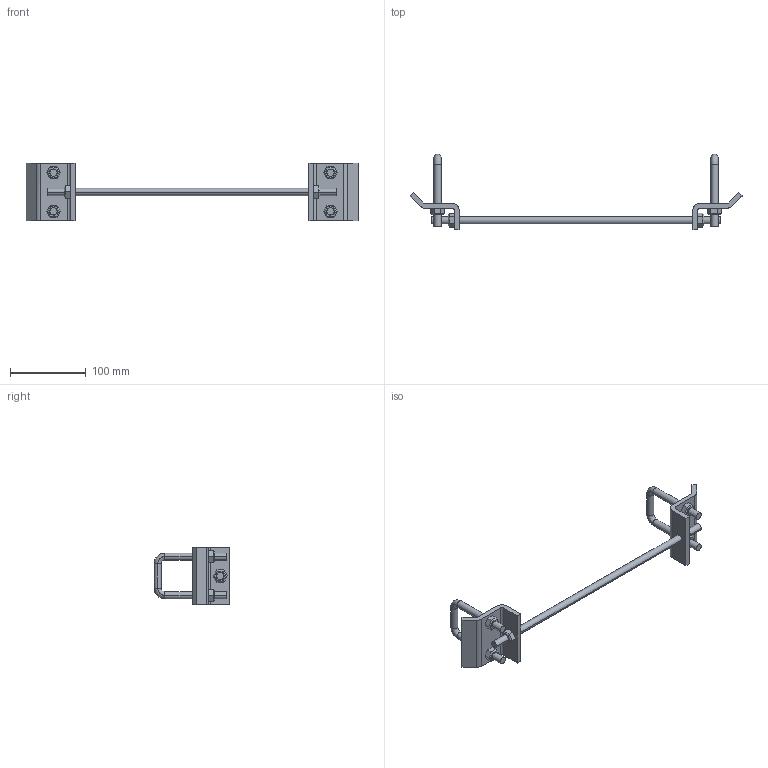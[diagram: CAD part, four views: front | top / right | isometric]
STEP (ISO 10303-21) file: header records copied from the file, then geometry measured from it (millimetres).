
FILE_DESCRIPTION(('TurboCAD Mac Pro'),'Build 980');
FILE_NAME('P2868-15.stp',' ',(''),(''),'ACIS Interop','IMSI','TurboCAD Mac Pro BY IMSI, INCORPORATED');
FILE_SCHEMA(('automotive_design'));
Length unit declared in the file: inch
Products named in the file (11): 1; 2; 3; 4; 5; 6; 7; 8; 9; 10; 11
Bounding box: 437.6 x 100.03 x 76.2 mm (x, y, z)
Volume: 154413.5 mm3; surface area: 64288.9 mm2
Topology: 11 solids, 11 shells, 176 faces, 410 edges, 256 vertices
Faces by surface type: plane 110, bspline 40, cylinder 26
Entity records: 9100 total; most frequent: CARTESIAN_POINT 1837, ORIENTED_EDGE 820, DIRECTION 692, STYLED_ITEM 541, PRESENTATION_STYLE_ASSIGNMENT 541, COLOUR_RGB 541, EDGE_CURVE 410, CURVE_STYLE 354
